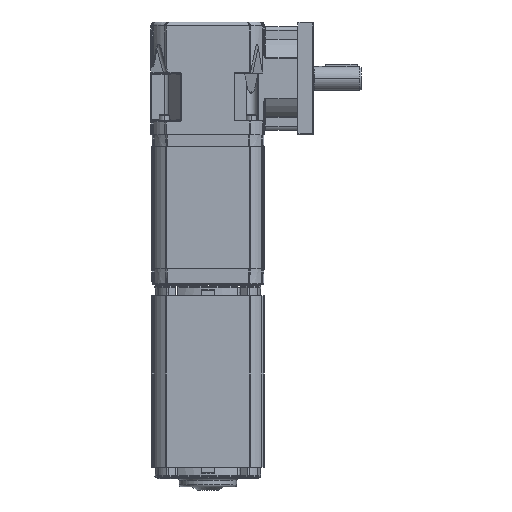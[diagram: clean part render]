
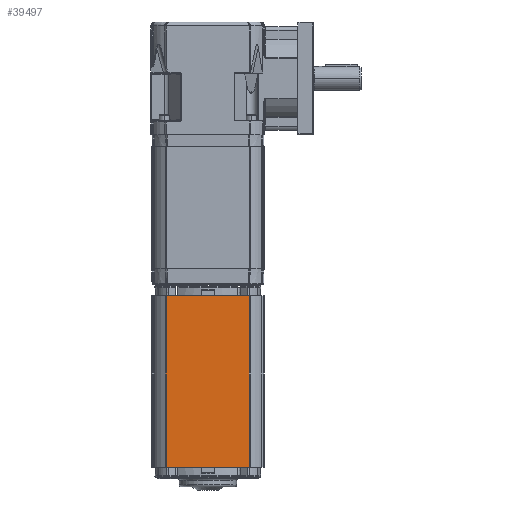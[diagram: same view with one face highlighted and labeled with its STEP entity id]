
A CAD part, front view. The second image highlights one B-rep face of the part: STEP entity #39497.
In plain terms, the highlighted planar face has unit normal (0, -1, 0).
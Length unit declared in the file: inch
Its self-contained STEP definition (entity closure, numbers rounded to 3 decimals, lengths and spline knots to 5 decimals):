
#1579 = VECTOR ( 'NONE', #33815, 39.37008 ) ;
#4666 = CARTESIAN_POINT ( 'NONE',  ( 1.325, -1.7765, -11.025 ) ) ;
#5154 = CARTESIAN_POINT ( 'NONE',  ( -1.305, -1.7765, -10.084 ) ) ;
#5888 = CARTESIAN_POINT ( 'NONE',  ( -1.305, -1.7765, -4.689 ) ) ;
#8220 = CARTESIAN_POINT ( 'NONE',  ( 1.305, -1.7765, -10.084 ) ) ;
#9615 = DIRECTION ( 'NONE',  ( 0., 0., -1. ) ) ;
#13462 = FACE_OUTER_BOUND ( 'NONE', #50708, .T. ) ;
#14082 = DIRECTION ( 'NONE',  ( 0., 0., -1. ) ) ;
#14183 = DIRECTION ( 'NONE',  ( 0., 0., 1. ) ) ;
#14967 = EDGE_CURVE ( 'NONE', #54095, #52830, #34832, .T. ) ;
#22248 = DIRECTION ( 'NONE',  ( -1., 0., 0. ) ) ;
#22464 = CARTESIAN_POINT ( 'NONE',  ( 1.305, -1.7765, -10.084 ) ) ;
#23706 = EDGE_CURVE ( 'NONE', #54095, #57177, #60363, .T. ) ;
#24032 = CARTESIAN_POINT ( 'NONE',  ( 1.305, -1.7765, -11.025 ) ) ;
#27538 = VERTEX_POINT ( 'NONE', #5888 ) ;
#27668 = ORIENTED_EDGE ( 'NONE', *, *, #63190, .T. ) ;
#33308 = VECTOR ( 'NONE', #22248, 39.37008 ) ;
#33521 = PLANE ( 'NONE',  #38290 ) ;
#33815 = DIRECTION ( 'NONE',  ( 1., 0., 0. ) ) ;
#34832 = LINE ( 'NONE', #22464, #33308 ) ;
#35236 = ORIENTED_EDGE ( 'NONE', *, *, #14967, .F. ) ;
#36938 = EDGE_CURVE ( 'NONE', #27538, #57177, #40631, .T. ) ;
#38290 = AXIS2_PLACEMENT_3D ( 'NONE', #4666, #38808, #9615 ) ;
#38808 = DIRECTION ( 'NONE',  ( 0., -1., 0. ) ) ;
#38885 = CARTESIAN_POINT ( 'NONE',  ( 1.325, -1.7765, -4.689 ) ) ;
#39497 = ADVANCED_FACE ( 'NONE', ( #13462 ), #33521, .T. ) ;
#40631 = LINE ( 'NONE', #38885, #1579 ) ;
#42745 = ORIENTED_EDGE ( 'NONE', *, *, #23706, .T. ) ;
#47293 = VECTOR ( 'NONE', #14183, 39.37008 ) ;
#48262 = CARTESIAN_POINT ( 'NONE',  ( -1.305, -1.7765, -11.025 ) ) ;
#50288 = LINE ( 'NONE', #48262, #63309 ) ;
#50708 = EDGE_LOOP ( 'NONE', ( #35236, #42745, #55849, #27668 ) ) ;
#52830 = VERTEX_POINT ( 'NONE', #5154 ) ;
#54095 = VERTEX_POINT ( 'NONE', #8220 ) ;
#55849 = ORIENTED_EDGE ( 'NONE', *, *, #36938, .F. ) ;
#55912 = CARTESIAN_POINT ( 'NONE',  ( 1.305, -1.7765, -4.689 ) ) ;
#57177 = VERTEX_POINT ( 'NONE', #55912 ) ;
#60363 = LINE ( 'NONE', #24032, #47293 ) ;
#63190 = EDGE_CURVE ( 'NONE', #27538, #52830, #50288, .T. ) ;
#63309 = VECTOR ( 'NONE', #14082, 39.37008 ) ;
